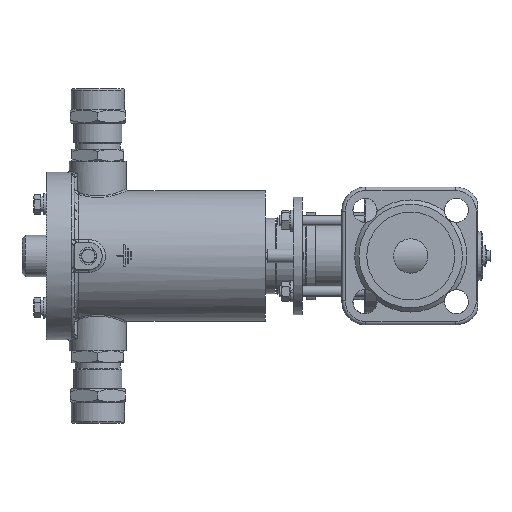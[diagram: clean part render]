
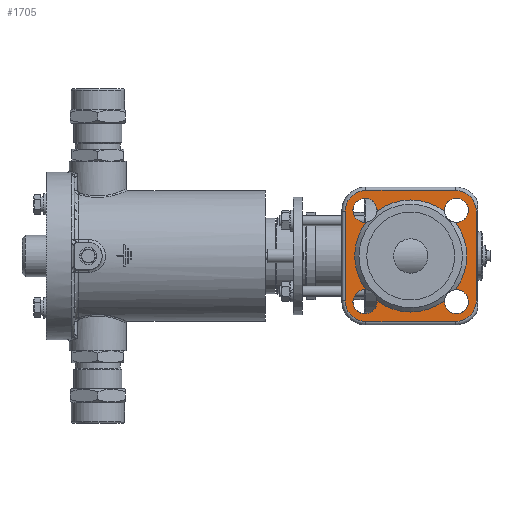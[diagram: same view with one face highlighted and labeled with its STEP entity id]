
A CAD part, left-side view. The second image highlights one B-rep face of the part: STEP entity #1705.
In plain terms, the highlighted planar face has unit normal (-1, 0, 0).
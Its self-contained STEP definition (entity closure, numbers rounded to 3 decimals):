
#1705=ADVANCED_FACE('',(#19410,#19412),#19414,.T.);
#19410=FACE_BOUND('',#19411,.T.);
#19411=EDGE_LOOP('',(#30209,#30210,#30211,#30212,#30213,#30214,#30215,#30216,#30217,
#30218,#30219,#30220,#30221));
#19412=FACE_OUTER_BOUND('',#19413,.T.);
#19413=EDGE_LOOP('',(#30222,#30223,#30224,#30225,#30226,#30227,#30228,#30229));
#19414=PLANE('',#19415);
#19415=AXIS2_PLACEMENT_3D('',#19416,#19417,#19418);
#19416=CARTESIAN_POINT('',(-63.5,0.,0.));
#19417=DIRECTION('',(-1.,0.,0.));
#19418=DIRECTION('',(0.,1.,0.));
#30209=ORIENTED_EDGE('',*,*,#39162,.T.);
#30210=ORIENTED_EDGE('',*,*,#39164,.T.);
#30211=ORIENTED_EDGE('',*,*,#39262,.T.);
#30212=ORIENTED_EDGE('',*,*,#39150,.T.);
#30213=ORIENTED_EDGE('',*,*,#39152,.T.);
#30214=ORIENTED_EDGE('',*,*,#39263,.T.);
#30215=ORIENTED_EDGE('',*,*,#39154,.T.);
#30216=ORIENTED_EDGE('',*,*,#39156,.T.);
#30217=ORIENTED_EDGE('',*,*,#39264,.T.);
#30218=ORIENTED_EDGE('',*,*,#39265,.T.);
#30219=ORIENTED_EDGE('',*,*,#39158,.T.);
#30220=ORIENTED_EDGE('',*,*,#39160,.T.);
#30221=ORIENTED_EDGE('',*,*,#39266,.T.);
#30222=ORIENTED_EDGE('',*,*,#39267,.T.);
#30223=ORIENTED_EDGE('',*,*,#39268,.T.);
#30224=ORIENTED_EDGE('',*,*,#39269,.T.);
#30225=ORIENTED_EDGE('',*,*,#39270,.T.);
#30226=ORIENTED_EDGE('',*,*,#39271,.T.);
#30227=ORIENTED_EDGE('',*,*,#39272,.T.);
#30228=ORIENTED_EDGE('',*,*,#39273,.T.);
#30229=ORIENTED_EDGE('',*,*,#39274,.T.);
#39150=EDGE_CURVE('',#46787,#46785,#46788,.F.);
#39152=EDGE_CURVE('',#46785,#46789,#46791,.F.);
#39154=EDGE_CURVE('',#46794,#46792,#46795,.F.);
#39156=EDGE_CURVE('',#46792,#46796,#46798,.F.);
#39158=EDGE_CURVE('',#46801,#46799,#46802,.F.);
#39160=EDGE_CURVE('',#46799,#46803,#46805,.F.);
#39162=EDGE_CURVE('',#46808,#46806,#46809,.F.);
#39164=EDGE_CURVE('',#46806,#46810,#46812,.F.);
#39262=EDGE_CURVE('',#46810,#46787,#46983,.T.);
#39263=EDGE_CURVE('',#46789,#46794,#46984,.T.);
#39264=EDGE_CURVE('',#46796,#46985,#46986,.T.);
#39265=EDGE_CURVE('',#46985,#46801,#46987,.T.);
#39266=EDGE_CURVE('',#46803,#46808,#46988,.T.);
#39267=EDGE_CURVE('',#46989,#46990,#46991,.F.);
#39268=EDGE_CURVE('',#46990,#46992,#46993,.T.);
#39269=EDGE_CURVE('',#46992,#46994,#46995,.F.);
#39270=EDGE_CURVE('',#46994,#46996,#46997,.T.);
#39271=EDGE_CURVE('',#46996,#46998,#46999,.F.);
#39272=EDGE_CURVE('',#46998,#47000,#47001,.T.);
#39273=EDGE_CURVE('',#47000,#47002,#47003,.F.);
#39274=EDGE_CURVE('',#47002,#46989,#47004,.T.);
#46785=VERTEX_POINT('',#73375);
#46787=VERTEX_POINT('',#73379);
#46788=CIRCLE('',#73380,7.);
#46789=VERTEX_POINT('',#73384);
#46791=CIRCLE('',#73483,7.);
#46792=VERTEX_POINT('',#73487);
#46794=VERTEX_POINT('',#73491);
#46795=CIRCLE('',#73492,7.);
#46796=VERTEX_POINT('',#73496);
#46798=CIRCLE('',#73595,7.);
#46799=VERTEX_POINT('',#73599);
#46801=VERTEX_POINT('',#73603);
#46802=CIRCLE('',#73604,7.);
#46803=VERTEX_POINT('',#73608);
#46805=CIRCLE('',#73707,7.);
#46806=VERTEX_POINT('',#73711);
#46808=VERTEX_POINT('',#73715);
#46809=CIRCLE('',#73716,7.);
#46810=VERTEX_POINT('',#73720);
#46812=CIRCLE('',#73819,7.);
#46983=CIRCLE('',#74562,32.5);
#46984=CIRCLE('',#74566,32.5);
#46985=VERTEX_POINT('',#74570);
#46986=CIRCLE('',#74571,32.5);
#46987=CIRCLE('',#74575,32.5);
#46988=CIRCLE('',#74579,32.5);
#46989=VERTEX_POINT('',#74583);
#46990=VERTEX_POINT('',#74584);
#46991=LINE('',#74585,#74586);
#46992=VERTEX_POINT('',#74588);
#46993=CIRCLE('',#74589,12.);
#46994=VERTEX_POINT('',#74593);
#46995=LINE('',#74594,#74595);
#46996=VERTEX_POINT('',#74597);
#46997=CIRCLE('',#74598,12.);
#46998=VERTEX_POINT('',#74602);
#46999=LINE('',#74603,#74604);
#47000=VERTEX_POINT('',#74606);
#47001=CIRCLE('',#74607,12.);
#47002=VERTEX_POINT('',#74611);
#47003=LINE('',#74612,#74613);
#47004=CIRCLE('',#74615,12.);
#73375=CARTESIAN_POINT('',(-63.5,-26.517,-33.517));
#73379=CARTESIAN_POINT('',(-63.5,-25.972,-19.538));
#73380=AXIS2_PLACEMENT_3D('',#73381,#73382,#73383);
#73381=CARTESIAN_POINT('',(-63.5,-26.517,-26.517));
#73382=DIRECTION('',(-1.,0.,-0.));
#73383=DIRECTION('',(0.,0.,-1.));
#73384=CARTESIAN_POINT('',(-63.5,-19.538,-25.972));
#73483=AXIS2_PLACEMENT_3D('',#73484,#73485,#73486);
#73484=CARTESIAN_POINT('',(-63.5,-26.517,-26.517));
#73485=DIRECTION('',(-1.,0.,-0.));
#73486=DIRECTION('',(0.,0.997,0.078));
#73487=CARTESIAN_POINT('',(-63.5,26.517,-33.517));
#73491=CARTESIAN_POINT('',(-63.5,19.538,-25.972));
#73492=AXIS2_PLACEMENT_3D('',#73493,#73494,#73495);
#73493=CARTESIAN_POINT('',(-63.5,26.517,-26.517));
#73494=DIRECTION('',(-1.,0.,-0.));
#73495=DIRECTION('',(0.,0.,-1.));
#73496=CARTESIAN_POINT('',(-63.5,25.972,-19.538));
#73595=AXIS2_PLACEMENT_3D('',#73596,#73597,#73598);
#73596=CARTESIAN_POINT('',(-63.5,26.517,-26.517));
#73597=DIRECTION('',(-1.,0.,-0.));
#73598=DIRECTION('',(0.,-0.078,0.997));
#73599=CARTESIAN_POINT('',(-63.5,26.517,19.517));
#73603=CARTESIAN_POINT('',(-63.5,25.972,19.538));
#73604=AXIS2_PLACEMENT_3D('',#73605,#73606,#73607);
#73605=CARTESIAN_POINT('',(-63.5,26.517,26.517));
#73606=DIRECTION('',(-1.,0.,-0.));
#73607=DIRECTION('',(0.,0.,-1.));
#73608=CARTESIAN_POINT('',(-63.5,19.538,25.972));
#73707=AXIS2_PLACEMENT_3D('',#73708,#73709,#73710);
#73708=CARTESIAN_POINT('',(-63.5,26.517,26.517));
#73709=DIRECTION('',(-1.,0.,-0.));
#73710=DIRECTION('',(0.,-0.997,-0.078));
#73711=CARTESIAN_POINT('',(-63.5,-26.517,19.517));
#73715=CARTESIAN_POINT('',(-63.5,-19.538,25.972));
#73716=AXIS2_PLACEMENT_3D('',#73717,#73718,#73719);
#73717=CARTESIAN_POINT('',(-63.5,-26.517,26.517));
#73718=DIRECTION('',(-1.,0.,-0.));
#73719=DIRECTION('',(0.,0.,-1.));
#73720=CARTESIAN_POINT('',(-63.5,-25.972,19.538));
#73819=AXIS2_PLACEMENT_3D('',#73820,#73821,#73822);
#73820=CARTESIAN_POINT('',(-63.5,-26.517,26.517));
#73821=DIRECTION('',(-1.,0.,-0.));
#73822=DIRECTION('',(0.,0.078,-0.997));
#74562=AXIS2_PLACEMENT_3D('',#74563,#74564,#74565);
#74563=CARTESIAN_POINT('',(-63.5,0.,0.));
#74564=DIRECTION('',(1.,0.,0.));
#74565=DIRECTION('',(0.,-0.799,0.601));
#74566=AXIS2_PLACEMENT_3D('',#74567,#74568,#74569);
#74567=CARTESIAN_POINT('',(-63.5,0.,0.));
#74568=DIRECTION('',(1.,0.,0.));
#74569=DIRECTION('',(0.,-0.601,-0.799));
#74570=CARTESIAN_POINT('',(-63.5,32.5,0.));
#74571=AXIS2_PLACEMENT_3D('',#74572,#74573,#74574);
#74572=CARTESIAN_POINT('',(-63.5,0.,0.));
#74573=DIRECTION('',(1.,0.,0.));
#74574=DIRECTION('',(0.,0.799,-0.601));
#74575=AXIS2_PLACEMENT_3D('',#74576,#74577,#74578);
#74576=CARTESIAN_POINT('',(-63.5,0.,0.));
#74577=DIRECTION('',(1.,0.,0.));
#74578=DIRECTION('',(0.,1.,0.));
#74579=AXIS2_PLACEMENT_3D('',#74580,#74581,#74582);
#74580=CARTESIAN_POINT('',(-63.5,0.,0.));
#74581=DIRECTION('',(1.,0.,0.));
#74582=DIRECTION('',(0.,0.601,0.799));
#74583=CARTESIAN_POINT('',(-63.5,26.,-38.));
#74584=CARTESIAN_POINT('',(-63.5,-26.,-38.));
#74585=CARTESIAN_POINT('',(-63.5,-26.,-38.));
#74586=VECTOR('',#74587,1.);
#74587=DIRECTION('',(0.,1.,0.));
#74588=CARTESIAN_POINT('',(-63.5,-38.,-26.));
#74589=AXIS2_PLACEMENT_3D('',#74590,#74591,#74592);
#74590=CARTESIAN_POINT('',(-63.5,-26.,-26.));
#74591=DIRECTION('',(-1.,0.,-0.));
#74592=DIRECTION('',(0.,0.,-1.));
#74593=CARTESIAN_POINT('',(-63.5,-38.,26.));
#74594=CARTESIAN_POINT('',(-63.5,-38.,26.));
#74595=VECTOR('',#74596,1.);
#74596=DIRECTION('',(0.,0.,-1.));
#74597=CARTESIAN_POINT('',(-63.5,-26.,38.));
#74598=AXIS2_PLACEMENT_3D('',#74599,#74600,#74601);
#74599=CARTESIAN_POINT('',(-63.5,-26.,26.));
#74600=DIRECTION('',(-1.,-0.,0.));
#74601=DIRECTION('',(0.,-1.,0.));
#74602=CARTESIAN_POINT('',(-63.5,26.,38.));
#74603=CARTESIAN_POINT('',(-63.5,26.,38.));
#74604=VECTOR('',#74605,1.);
#74605=DIRECTION('',(0.,-1.,0.));
#74606=CARTESIAN_POINT('',(-63.5,38.,26.));
#74607=AXIS2_PLACEMENT_3D('',#74608,#74609,#74610);
#74608=CARTESIAN_POINT('',(-63.5,26.,26.));
#74609=DIRECTION('',(-1.,0.,0.));
#74610=DIRECTION('',(0.,0.,1.));
#74611=CARTESIAN_POINT('',(-63.5,38.,-26.));
#74612=CARTESIAN_POINT('',(-63.5,38.,-26.));
#74613=VECTOR('',#74614,1.);
#74614=DIRECTION('',(0.,0.,1.));
#74615=AXIS2_PLACEMENT_3D('',#74616,#74617,#74618);
#74616=CARTESIAN_POINT('',(-63.5,26.,-26.));
#74617=DIRECTION('',(-1.,0.,0.));
#74618=DIRECTION('',(0.,1.,0.));
